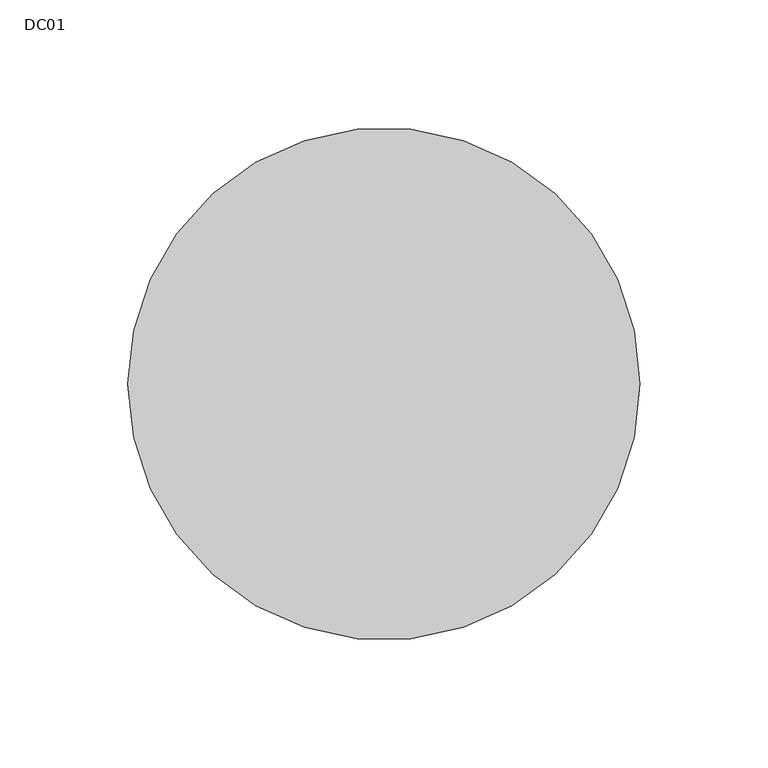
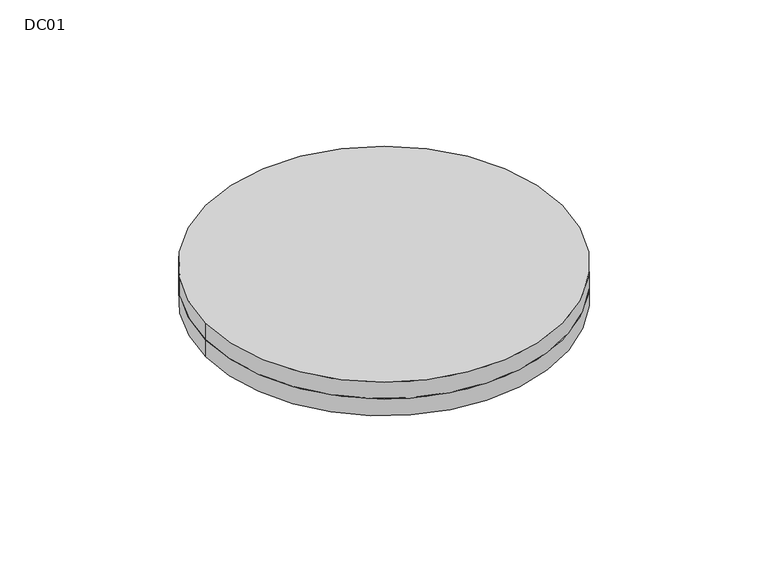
"""IFC4 building model written with IfcOpenShell, lengths in millimetres: air terminal geometry, ZYR_03.06.08.01 Difusor Rotacional Circular Impulsió NO PLENUM : DC01."""

from ifc_helpers import new_model, si_unit, point, frame, origin, origin_with_axes, origin_2d, place, context, project, spatial, polyline, circle_curve, trimmed, segment, composite_curve, outline, extrude, source, transform, mapped, element, save


def dc01_c9211ce0(model_context):
    return source(origin(), model_context, "Body", "SweptSolid", [
        extrude(outline(polyline([(12.3743687, 30.0520382), (51.85958, 69.5372495), (69.5372495, 51.85958), (30.0520382, 12.3743687), (12.3743687, 30.0520382)])), frame((0.0, 0.0, -10.0), z_axis=(0.0, 0.0, 1.0), x_axis=(1.0, 0.0, 0.0)), (0.0, 0.0, 1.0), 10.0),
        extrude(outline(polyline([(-12.3743687, 30.0520382), (-30.0520382, 12.3743687), (-69.5372495, 51.85958), (-51.85958, 69.5372495), (-12.3743687, 30.0520382)])), frame((0.0, 0.0, -10.0), z_axis=(0.0, 0.0, 1.0), x_axis=(1.0, 0.0, 0.0)), (0.0, 0.0, 1.0), 10.0),
        extrude(outline(polyline([(12.3743687, -30.0520382), (30.0520382, -12.3743687), (69.5372495, -51.85958), (51.85958, -69.5372495), (12.3743687, -30.0520382)])), frame((0.0, 0.0, -10.0), z_axis=(0.0, 0.0, 1.0), x_axis=(1.0, 0.0, 0.0)), (0.0, 0.0, 1.0), 10.0),
        extrude(outline(polyline([(-12.3743687, -30.0520382), (-51.85958, -69.5372495), (-69.5372495, -51.85958), (-30.0520382, -12.3743687), (-12.3743687, -30.0520382)])), frame((0.0, 0.0, -10.0), z_axis=(0.0, 0.0, 1.0), x_axis=(1.0, 0.0, 0.0)), (0.0, 0.0, 1.0), 10.0),
        extrude(outline(polyline([(-32.5, -12.5), (-88.3405214, -12.5), (-88.3405214, 12.5), (-32.5, 12.5), (-32.5, -12.5)])), frame((0.0, 0.0, -10.0), z_axis=(0.0, 0.0, 1.0), x_axis=(1.0, 0.0, 0.0)), (0.0, 0.0, 1.0), 10.0),
        extrude(outline(polyline([(32.5, -12.5), (32.5, 12.5), (88.3405214, 12.5), (88.3405214, -12.5), (32.5, -12.5)])), frame((0.0, 0.0, -10.0), z_axis=(0.0, 0.0, 1.0), x_axis=(1.0, 0.0, 0.0)), (0.0, 0.0, 1.0), 10.0),
        extrude(outline(polyline([(-12.5, 32.6241447), (-12.5, 88.4646661), (12.5, 88.4646661), (12.5, 32.6241447), (-12.5, 32.6241447)])), frame((0.0, 0.0, -10.0), z_axis=(0.0, 0.0, 1.0), x_axis=(1.0, 0.0, 0.0)), (0.0, 0.0, 1.0), 10.0),
        extrude(outline(polyline([(-12.5, -32.6241447), (12.5, -32.6241447), (12.5, -88.4646661), (-12.5, -88.4646661), (-12.5, -32.6241447)])), frame((0.0, 0.0, -10.0), z_axis=(0.0, 0.0, 1.0), x_axis=(1.0, 0.0, 0.0)), (0.0, 0.0, 1.0), 10.0),
        extrude(outline(composite_curve([segment(trimmed(circle_curve(origin_2d(), 100.0), [point((-100.0, 0.0))], [point((100.0, 0.0))], False, "CARTESIAN"), True, "CONTINUOUS"), segment(trimmed(circle_curve(origin_2d(), 100.0), [point((100.0, 0.0))], [point((-100.0, 0.0))], False, "CARTESIAN"), True, "CONTINUOUS")], self_intersect=False), holes=[composite_curve([segment(trimmed(circle_curve(origin_2d(), 95.8405214), [point((-95.8405214, 0.0))], [point((95.8405214, 0.0))], True, "CARTESIAN"), True, "CONTINUOUS"), segment(trimmed(circle_curve(origin_2d(), 95.8405214), [point((95.8405214, 0.0))], [point((-95.8405214, 0.0))], True, "CARTESIAN"), True, "CONTINUOUS")], self_intersect=False)]), frame((0.0, 0.0, -10.0), z_axis=(0.0, 0.0, 1.0), x_axis=(1.0, 0.0, 0.0)), (0.0, 0.0, 1.0), 10.0),
        extrude(outline(composite_curve([segment(trimmed(circle_curve(origin_2d(), 100.0), [point((-100.0, 0.0))], [point((100.0, 0.0))], False, "CARTESIAN"), True, "CONTINUOUS"), segment(trimmed(circle_curve(origin_2d(), 100.0), [point((100.0, 0.0))], [point((-100.0, 0.0))], False, "CARTESIAN"), True, "CONTINUOUS")], self_intersect=False)), origin_with_axes(), (0.0, 0.0, 1.0), 10.0),
    ])


if __name__ == "__main__":
    model = new_model("IFC4")
    model_context = context("Model", 3, world=origin())
    ifc_project = project(units=[si_unit("LENGTHUNIT", "METRE", prefix="MILLI")], contexts=[model_context])
    site = spatial("IfcSite", under=ifc_project)
    building = spatial("IfcBuilding", under=site)
    placement = place(None, origin())
    dc01_shape = dc01_c9211ce0(model_context)
    element("IfcAirTerminal", 1, ObjectType="ZYR_03.06.08.01 Difusor Rotacional Circular Impulsió NO PLENUM : DC01", at=placement, inside=building, context=model_context, shape_type="MappedRepresentation", body=[
        mapped(dc01_shape, transform((0.0, 0.0, 0.0), x_axis=(1.0, 0.0, 0.0), y_axis=(0.0, 1.0, 0.0), z_axis=(0.0, 0.0, 1.0))),
    ])
    save(model, "model.ifc")
